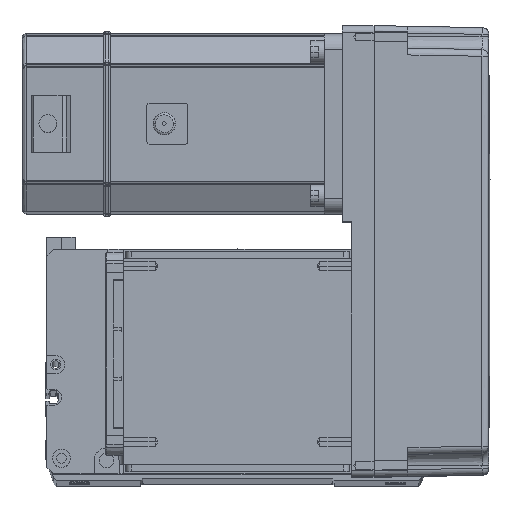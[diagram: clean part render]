
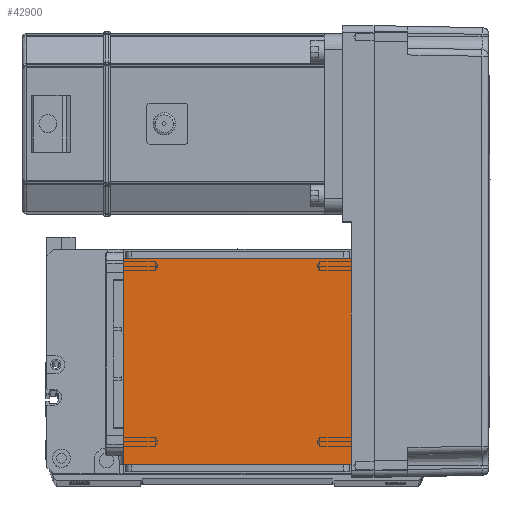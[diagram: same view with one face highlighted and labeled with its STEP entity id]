
A CAD part, top view. The second image highlights one B-rep face of the part: STEP entity #42900.
In plain terms, the highlighted planar face has unit normal (0, 0, 1).
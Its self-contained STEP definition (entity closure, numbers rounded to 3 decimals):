
#88 = VERTEX_POINT ( 'NONE', #55670 ) ;
#948 = CARTESIAN_POINT ( 'NONE',  ( 0., 0., 115. ) ) ;
#2563 = CARTESIAN_POINT ( 'NONE',  ( 50.5, 122., 115. ) ) ;
#3306 = VECTOR ( 'NONE', #39542, 1000. ) ;
#3376 = EDGE_CURVE ( 'NONE', #58046, #88, #23075, .T. ) ;
#3798 = DIRECTION ( 'NONE',  ( -1., 0., 0. ) ) ;
#5850 = VECTOR ( 'NONE', #12176, 1000. ) ;
#7674 = VECTOR ( 'NONE', #21651, 1000. ) ;
#8311 = ORIENTED_EDGE ( 'NONE', *, *, #30882, .F. ) ;
#9725 = PLANE ( 'NONE',  #50452 ) ;
#12176 = DIRECTION ( 'NONE',  ( 0., 1., 0. ) ) ;
#13945 = FACE_OUTER_BOUND ( 'NONE', #39991, .T. ) ;
#17056 = LINE ( 'NONE', #45187, #7674 ) ;
#17070 = LINE ( 'NONE', #18230, #22837 ) ;
#18230 = CARTESIAN_POINT ( 'NONE',  ( -70.004, 20., 115. ) ) ;
#21651 = DIRECTION ( 'NONE',  ( 0., -1., 0. ) ) ;
#22837 = VECTOR ( 'NONE', #3798, 1000. ) ;
#23075 = LINE ( 'NONE', #2563, #5850 ) ;
#27044 = VERTEX_POINT ( 'NONE', #43944 ) ;
#30882 = EDGE_CURVE ( 'NONE', #58046, #32479, #17070, .T. ) ;
#32479 = VERTEX_POINT ( 'NONE', #46992 ) ;
#34995 = CARTESIAN_POINT ( 'NONE',  ( 50.5, 20., 115. ) ) ;
#35742 = ORIENTED_EDGE ( 'NONE', *, *, #50450, .F. ) ;
#39542 = DIRECTION ( 'NONE',  ( 1., 0., 0. ) ) ;
#39991 = EDGE_LOOP ( 'NONE', ( #35742, #55751, #8311, #44240 ) ) ;
#42900 = ADVANCED_FACE ( 'NONE', ( #13945 ), #9725, .T. ) ;
#42909 = LINE ( 'NONE', #58077, #3306 ) ;
#43944 = CARTESIAN_POINT ( 'NONE',  ( -50.5, 111.5, 115. ) ) ;
#44240 = ORIENTED_EDGE ( 'NONE', *, *, #3376, .T. ) ;
#45187 = CARTESIAN_POINT ( 'NONE',  ( -50.5, 122., 115. ) ) ;
#46992 = CARTESIAN_POINT ( 'NONE',  ( -50.5, 20., 115. ) ) ;
#48881 = EDGE_CURVE ( 'NONE', #27044, #32479, #17056, .T. ) ;
#50450 = EDGE_CURVE ( 'NONE', #27044, #88, #42909, .T. ) ;
#50452 = AXIS2_PLACEMENT_3D ( 'NONE', #948, #51408, #56038 ) ;
#51408 = DIRECTION ( 'NONE',  ( 0., 0., 1. ) ) ;
#55670 = CARTESIAN_POINT ( 'NONE',  ( 50.5, 111.5, 115. ) ) ;
#55751 = ORIENTED_EDGE ( 'NONE', *, *, #48881, .T. ) ;
#56038 = DIRECTION ( 'NONE',  ( 1., 0., 0. ) ) ;
#58046 = VERTEX_POINT ( 'NONE', #34995 ) ;
#58077 = CARTESIAN_POINT ( 'NONE',  ( -70.004, 111.5, 115. ) ) ;
